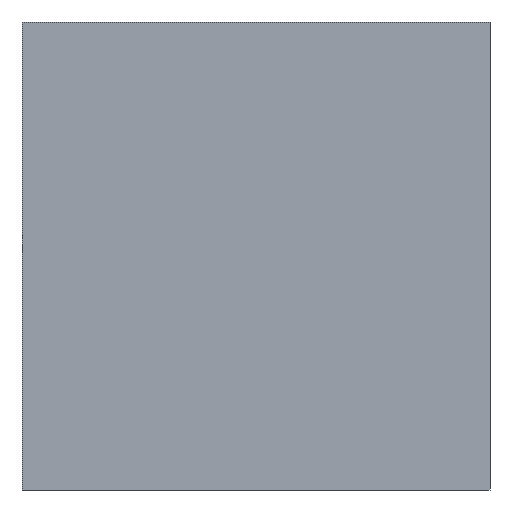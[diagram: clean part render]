
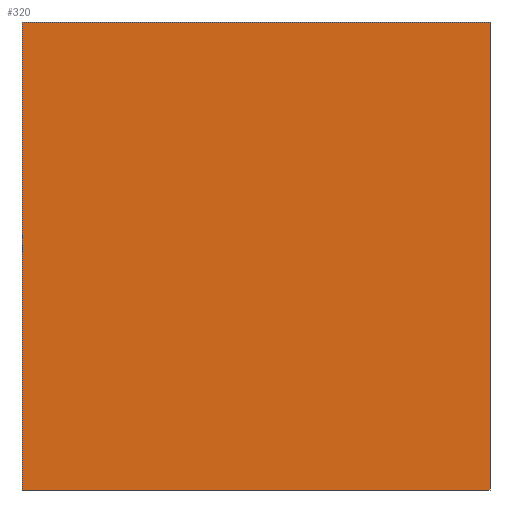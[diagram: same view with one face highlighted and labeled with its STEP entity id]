
A CAD part, left-side view. The second image highlights one B-rep face of the part: STEP entity #320.
In plain terms, the highlighted planar face has unit normal (-1, 0, 0).
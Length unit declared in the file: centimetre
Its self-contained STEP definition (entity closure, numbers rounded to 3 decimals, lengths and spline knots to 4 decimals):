
#22 = DIRECTION ( 'NONE',  ( 0., 0., -1. ) ) ;
#29 = EDGE_CURVE ( 'NONE', #357, #515, #113, .T. ) ;
#49 = EDGE_CURVE ( 'NONE', #357, #388, #150, .T. ) ;
#64 = VECTOR ( 'NONE', #382, 100. ) ;
#84 = ORIENTED_EDGE ( 'NONE', *, *, #29, .T. ) ;
#86 = LINE ( 'NONE', #238, #156 ) ;
#99 = CARTESIAN_POINT ( 'NONE',  ( 0., 1000., 1000. ) ) ;
#113 = LINE ( 'NONE', #268, #64 ) ;
#124 = DIRECTION ( 'NONE',  ( 0., 0., -1. ) ) ;
#135 = LINE ( 'NONE', #287, #461 ) ;
#150 = LINE ( 'NONE', #300, #159 ) ;
#156 = VECTOR ( 'NONE', #124, 100. ) ;
#159 = VECTOR ( 'NONE', #229, 100. ) ;
#177 = CARTESIAN_POINT ( 'NONE',  ( 0., 0., 1000. ) ) ;
#186 = CARTESIAN_POINT ( 'NONE',  ( 0., 1000., 0. ) ) ;
#189 = DIRECTION ( 'NONE',  ( 1., 0., 0. ) ) ;
#191 = VERTEX_POINT ( 'NONE', #324 ) ;
#207 = EDGE_CURVE ( 'NONE', #388, #191, #86, .T. ) ;
#226 = CARTESIAN_POINT ( 'NONE',  ( 0., 1000., 1000. ) ) ;
#229 = DIRECTION ( 'NONE',  ( 0., -1., 0. ) ) ;
#238 = CARTESIAN_POINT ( 'NONE',  ( 0., 0., 1000. ) ) ;
#247 = ORIENTED_EDGE ( 'NONE', *, *, #263, .T. ) ;
#263 = EDGE_CURVE ( 'NONE', #515, #191, #135, .T. ) ;
#268 = CARTESIAN_POINT ( 'NONE',  ( 0., 1000., 1000. ) ) ;
#287 = CARTESIAN_POINT ( 'NONE',  ( 0., 1000., 0. ) ) ;
#300 = CARTESIAN_POINT ( 'NONE',  ( 0., 1000., 1000. ) ) ;
#320 = ADVANCED_FACE ( 'NONE', ( #426 ), #385, .F. ) ;
#324 = CARTESIAN_POINT ( 'NONE',  ( 0., 0., 0. ) ) ;
#325 = AXIS2_PLACEMENT_3D ( 'NONE', #226, #189, #22 ) ;
#336 = ORIENTED_EDGE ( 'NONE', *, *, #207, .F. ) ;
#357 = VERTEX_POINT ( 'NONE', #99 ) ;
#382 = DIRECTION ( 'NONE',  ( 0., 0., -1. ) ) ;
#385 = PLANE ( 'NONE',  #325 ) ;
#388 = VERTEX_POINT ( 'NONE', #177 ) ;
#408 = EDGE_LOOP ( 'NONE', ( #247, #336, #431, #84 ) ) ;
#426 = FACE_OUTER_BOUND ( 'NONE', #408, .T. ) ;
#431 = ORIENTED_EDGE ( 'NONE', *, *, #49, .F. ) ;
#450 = DIRECTION ( 'NONE',  ( 0., -1., 0. ) ) ;
#461 = VECTOR ( 'NONE', #450, 100. ) ;
#515 = VERTEX_POINT ( 'NONE', #186 ) ;
